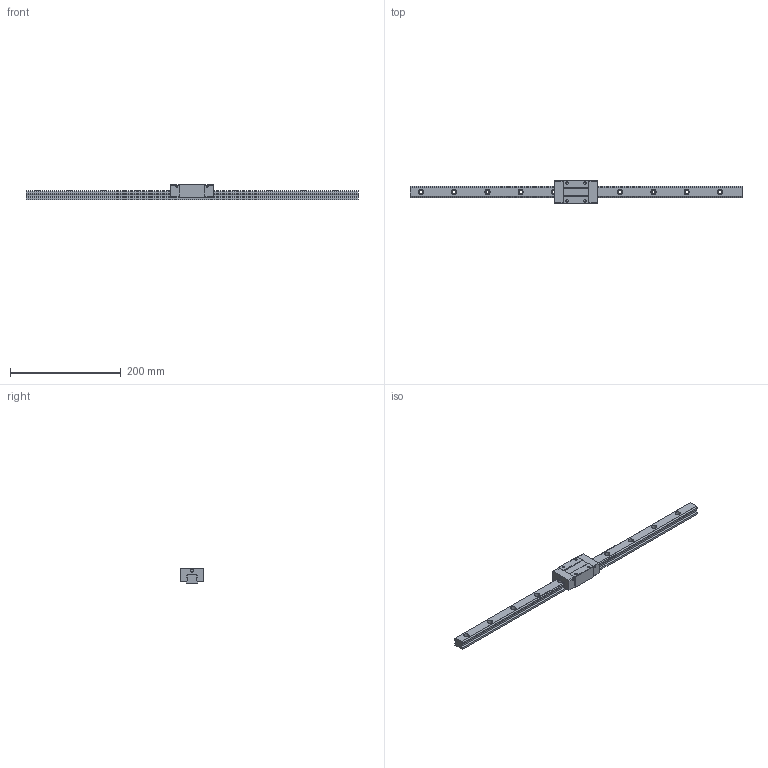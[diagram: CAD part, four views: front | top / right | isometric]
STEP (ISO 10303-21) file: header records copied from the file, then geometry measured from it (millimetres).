
FILE_DESCRIPTION (( 'STEP AP203' ), '1' );
FILE_NAME ('TRS20VN-ZN.STEP', '2024-06-12T08:57:15', ( '' ), ( '' ), 'SwSTEP 2.0', 'SolidWorks 2022', '' );
FILE_SCHEMA (( 'CONFIG_CONTROL_DESIGN' ));
Length unit declared in the file: millimetre
Products named in the file (1): TRS20VN-ZN
Bounding box: 600 x 42 x 28 mm (x, y, z)
Volume: 225739.6 mm3; surface area: 63654.1 mm2
Topology: 2 solids, 2 shells, 192 faces, 496 edges, 328 vertices
Faces by surface type: cylinder 96, plane 96
Entity records: 6023 total; most frequent: DIRECTION 1074, CARTESIAN_POINT 1017, ORIENTED_EDGE 992, EDGE_CURVE 496, AXIS2_PLACEMENT_3D 385, VERTEX_POINT 328, LINE 304, VECTOR 304
